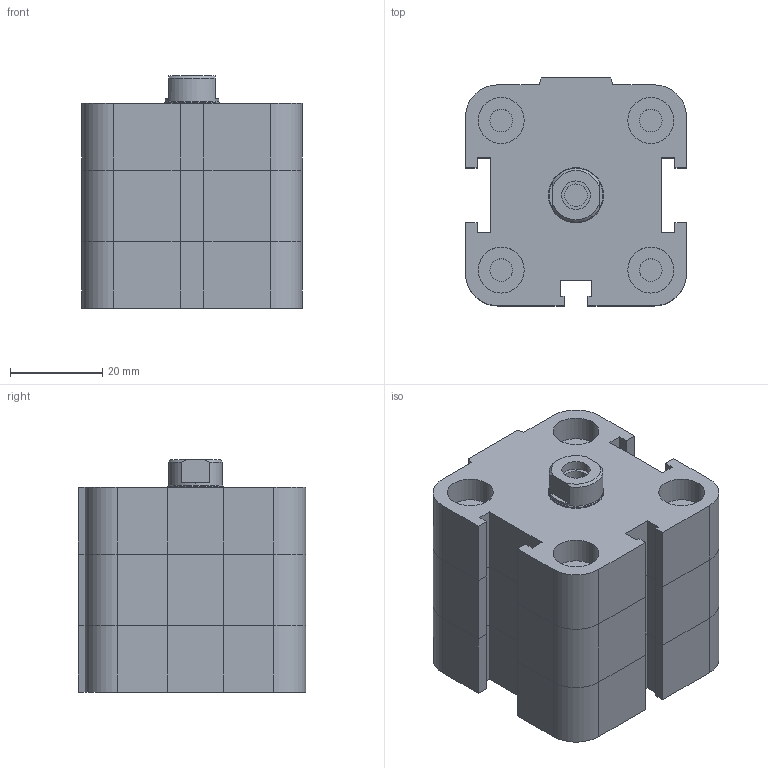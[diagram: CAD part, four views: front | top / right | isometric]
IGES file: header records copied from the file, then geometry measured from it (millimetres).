
Global section: file name: No Iges File Name specified; native system: Autodesk Inventor 2009; preprocessor: AutoDesk Inventor Iges Exporter R2009; author: rivolro1; date: 20081219.152150; units: millimetre
Bounding box: 48 x 49.5 x 50.5 mm (x, y, z)
Volume: 87346 mm3; surface area: 20087.1 mm2
Topology: 2 solids, 2 shells, 187 faces, 410 edges, 248 vertices
Faces by surface type: plane 112, bspline 39, revolution 16, cylinder 16, cone 4
